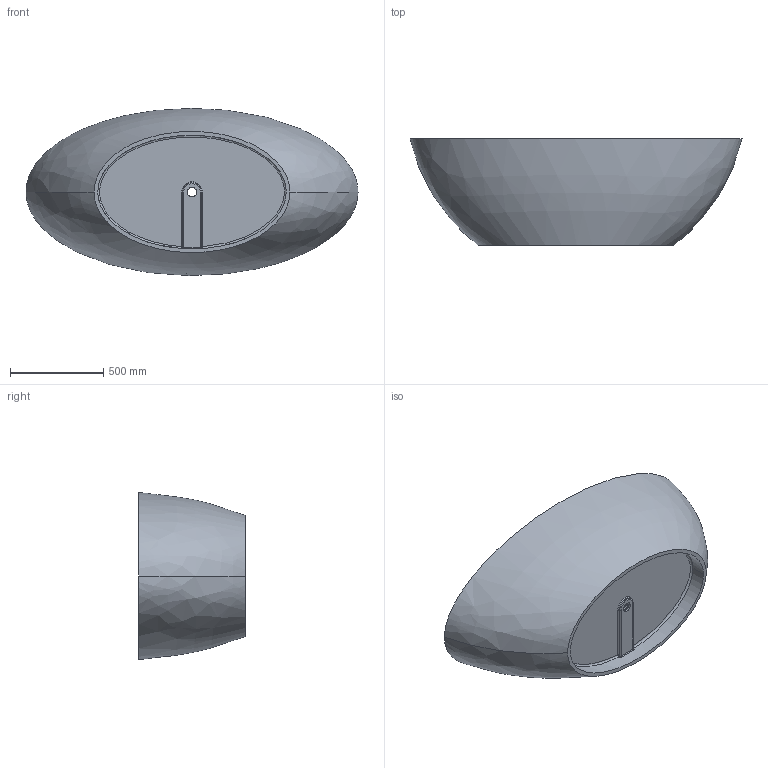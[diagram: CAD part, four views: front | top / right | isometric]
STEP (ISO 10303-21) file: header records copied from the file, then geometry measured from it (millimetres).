
FILE_DESCRIPTION (( 'STEP AP214' ), '1' );
FILE_NAME ('TC-S103.STEP', '2016-02-29T02:44:55', ( '旮僅薊襠http://www.deepbbs.org' ), ( 'http://www.deepbbs.org' ), 'SwSTEP 2.0', 'SolidWorks 2014', '' );
FILE_SCHEMA (( 'AUTOMOTIVE_DESIGN' ));
Length unit declared in the file: millimetre
Products named in the file (1): TC-S103
Bounding box: 1779.86 x 570 x 896.28 mm (x, y, z)
Volume: 77516260.7 mm3; surface area: 5644982.1 mm2
Topology: 1 solids, 1 shells, 63 faces, 151 edges, 89 vertices
Faces by surface type: bspline 22, cylinder 19, plane 13, torus 7, cone 2
Entity records: 10936 total; most frequent: CARTESIAN_POINT 9611, ORIENTED_EDGE 298, DIRECTION 227, EDGE_CURVE 149, AXIS2_PLACEMENT_3D 91, VERTEX_POINT 89, EDGE_LOOP 68, ADVANCED_FACE 63
